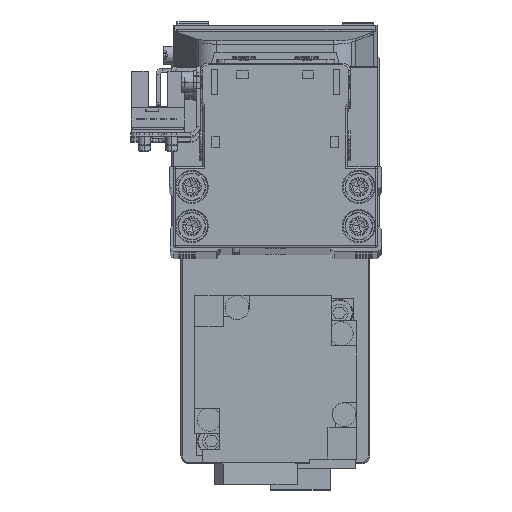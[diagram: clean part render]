
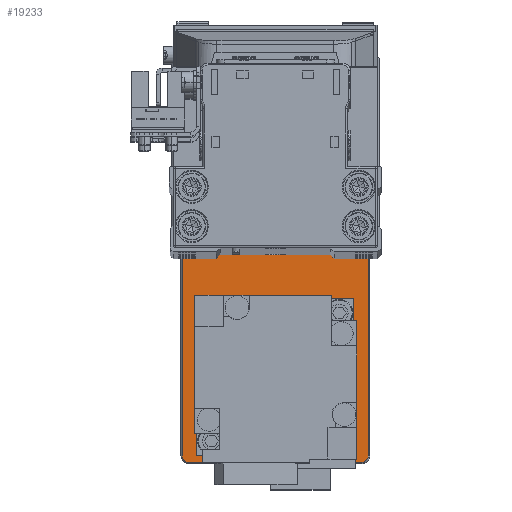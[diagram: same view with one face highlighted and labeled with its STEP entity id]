
A CAD part, top view. The second image highlights one B-rep face of the part: STEP entity #19233.
In plain terms, the highlighted planar face has unit normal (0, 0, 1).
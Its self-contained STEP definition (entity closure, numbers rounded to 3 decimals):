
#147 = CIRCLE ( 'NONE', #23209, 1.7 ) ;
#181 = AXIS2_PLACEMENT_3D ( 'NONE', #40775, #12530, #25102 ) ;
#596 = DIRECTION ( 'NONE',  ( 1., 0., 0. ) ) ;
#1442 = CARTESIAN_POINT ( 'NONE',  ( 51.7, 22., 5. ) ) ;
#1585 = DIRECTION ( 'NONE',  ( 0., 0., -1. ) ) ;
#3028 = FACE_BOUND ( 'NONE', #24442, .T. ) ;
#3333 = DIRECTION ( 'NONE',  ( 0., 0., 1. ) ) ;
#3351 = CARTESIAN_POINT ( 'NONE',  ( -51.7, -22., 5. ) ) ;
#3788 = CIRCLE ( 'NONE', #26828, 1.7 ) ;
#3816 = ORIENTED_EDGE ( 'NONE', *, *, #36213, .T. ) ;
#4192 = CARTESIAN_POINT ( 'NONE',  ( -51.7, -22., 5. ) ) ;
#4207 = CARTESIAN_POINT ( 'NONE',  ( 50., 23.7, 5. ) ) ;
#5780 = CARTESIAN_POINT ( 'NONE',  ( 51.7, -22., 5. ) ) ;
#6476 = AXIS2_PLACEMENT_3D ( 'NONE', #38012, #9766, #22330 ) ;
#6772 = CARTESIAN_POINT ( 'NONE',  ( 50., -22., 5. ) ) ;
#7786 = EDGE_CURVE ( 'NONE', #26775, #27962, #147, .T. ) ;
#8120 = CARTESIAN_POINT ( 'NONE',  ( 51.7, 22., 5. ) ) ;
#8799 = VERTEX_POINT ( 'NONE', #21249 ) ;
#9052 = CARTESIAN_POINT ( 'NONE',  ( 42.8, 0., 5. ) ) ;
#9523 = DIRECTION ( 'NONE',  ( 1., 0., 0. ) ) ;
#9561 = EDGE_LOOP ( 'NONE', ( #34800, #25081 ) ) ;
#9675 = CARTESIAN_POINT ( 'NONE',  ( -50., 23.7, 5. ) ) ;
#9766 = DIRECTION ( 'NONE',  ( 0., 0., -1. ) ) ;
#10217 = VECTOR ( 'NONE', #22225, 1000. ) ;
#10511 = CIRCLE ( 'NONE', #15734, 12.8 ) ;
#10532 = EDGE_CURVE ( 'NONE', #8799, #31688, #36464, .T. ) ;
#10872 = DIRECTION ( 'NONE',  ( 1., 0., 0. ) ) ;
#11378 = VERTEX_POINT ( 'NONE', #3351 ) ;
#11483 = ORIENTED_EDGE ( 'NONE', *, *, #23138, .T. ) ;
#11549 = CARTESIAN_POINT ( 'NONE',  ( 17.2, 0., 5. ) ) ;
#11702 = DIRECTION ( 'NONE',  ( 1., 0., 0. ) ) ;
#12530 = DIRECTION ( 'NONE',  ( 0., 0., 1. ) ) ;
#12904 = CARTESIAN_POINT ( 'NONE',  ( -28., 0., 5. ) ) ;
#12963 = CARTESIAN_POINT ( 'NONE',  ( -50., 23.7, 5. ) ) ;
#13582 = CIRCLE ( 'NONE', #36627, 10.3 ) ;
#14017 = DIRECTION ( 'NONE',  ( 0., 1., 0. ) ) ;
#14169 = DIRECTION ( 'NONE',  ( 1., 0., 0. ) ) ;
#14369 = VERTEX_POINT ( 'NONE', #14461 ) ;
#14461 = CARTESIAN_POINT ( 'NONE',  ( -38.3, 0., 5. ) ) ;
#14699 = EDGE_CURVE ( 'NONE', #22486, #39323, #10511, .T. ) ;
#14964 = EDGE_CURVE ( 'NONE', #23347, #14369, #34206, .T. ) ;
#15392 = EDGE_CURVE ( 'NONE', #39323, #22486, #24268, .T. ) ;
#15603 = FACE_OUTER_BOUND ( 'NONE', #23053, .T. ) ;
#15734 = AXIS2_PLACEMENT_3D ( 'NONE', #29834, #1585, #14169 ) ;
#15901 = DIRECTION ( 'NONE',  ( 1., 0., 0. ) ) ;
#16229 = ORIENTED_EDGE ( 'NONE', *, *, #27008, .T. ) ;
#16258 = CARTESIAN_POINT ( 'NONE',  ( -28., 0., 5. ) ) ;
#16377 = AXIS2_PLACEMENT_3D ( 'NONE', #31590, #3333, #15901 ) ;
#16448 = AXIS2_PLACEMENT_3D ( 'NONE', #12904, #25476, #38063 ) ;
#16767 = VECTOR ( 'NONE', #14017, 1000. ) ;
#16782 = DIRECTION ( 'NONE',  ( 0., -1., 0. ) ) ;
#18661 = AXIS2_PLACEMENT_3D ( 'NONE', #6772, #19343, #31918 ) ;
#18803 = VERTEX_POINT ( 'NONE', #28229 ) ;
#19233 = ADVANCED_FACE ( 'NONE', ( #31296, #3028, #15603 ), #28174, .T. ) ;
#19343 = DIRECTION ( 'NONE',  ( 0., 0., 1. ) ) ;
#19487 = CARTESIAN_POINT ( 'NONE',  ( -50., -23.7, 5. ) ) ;
#19768 = ORIENTED_EDGE ( 'NONE', *, *, #14964, .T. ) ;
#21249 = CARTESIAN_POINT ( 'NONE',  ( 50., -23.7, 5. ) ) ;
#22225 = DIRECTION ( 'NONE',  ( -1., 0., 0. ) ) ;
#22330 = DIRECTION ( 'NONE',  ( 1., 0., 0. ) ) ;
#22486 = VERTEX_POINT ( 'NONE', #11549 ) ;
#23053 = EDGE_LOOP ( 'NONE', ( #3816, #39568, #40521, #38889, #34228, #16229, #11483, #40505 ) ) ;
#23138 = EDGE_CURVE ( 'NONE', #18803, #11378, #32441, .T. ) ;
#23209 = AXIS2_PLACEMENT_3D ( 'NONE', #26532, #39118, #10872 ) ;
#23295 = ORIENTED_EDGE ( 'NONE', *, *, #39413, .T. ) ;
#23347 = VERTEX_POINT ( 'NONE', #24379 ) ;
#24204 = EDGE_CURVE ( 'NONE', #11378, #30967, #3788, .T. ) ;
#24268 = CIRCLE ( 'NONE', #6476, 12.8 ) ;
#24379 = CARTESIAN_POINT ( 'NONE',  ( -17.7, 0., 5. ) ) ;
#24442 = EDGE_LOOP ( 'NONE', ( #19768, #23295 ) ) ;
#25081 = ORIENTED_EDGE ( 'NONE', *, *, #14699, .T. ) ;
#25102 = DIRECTION ( 'NONE',  ( 1., 0., 0. ) ) ;
#25177 = LINE ( 'NONE', #37766, #40351 ) ;
#25476 = DIRECTION ( 'NONE',  ( 0., 0., -1. ) ) ;
#26532 = CARTESIAN_POINT ( 'NONE',  ( 50., 22., 5. ) ) ;
#26775 = VERTEX_POINT ( 'NONE', #8120 ) ;
#26828 = AXIS2_PLACEMENT_3D ( 'NONE', #27373, #39947, #11702 ) ;
#27008 = EDGE_CURVE ( 'NONE', #38130, #18803, #34152, .T. ) ;
#27373 = CARTESIAN_POINT ( 'NONE',  ( -50., -22., 5. ) ) ;
#27962 = VERTEX_POINT ( 'NONE', #4207 ) ;
#28174 = PLANE ( 'NONE',  #181 ) ;
#28229 = CARTESIAN_POINT ( 'NONE',  ( -51.7, 22., 5. ) ) ;
#28836 = DIRECTION ( 'NONE',  ( 0., 0., -1. ) ) ;
#29694 = LINE ( 'NONE', #1442, #16767 ) ;
#29834 = CARTESIAN_POINT ( 'NONE',  ( 30., 0., 5. ) ) ;
#30967 = VERTEX_POINT ( 'NONE', #19487 ) ;
#31296 = FACE_BOUND ( 'NONE', #9561, .T. ) ;
#31590 = CARTESIAN_POINT ( 'NONE',  ( -50., 22., 5. ) ) ;
#31688 = VERTEX_POINT ( 'NONE', #5780 ) ;
#31918 = DIRECTION ( 'NONE',  ( 1., 0., 0. ) ) ;
#32441 = LINE ( 'NONE', #4192, #32702 ) ;
#32702 = VECTOR ( 'NONE', #16782, 1000. ) ;
#34152 = CIRCLE ( 'NONE', #16377, 1.7 ) ;
#34206 = CIRCLE ( 'NONE', #16448, 10.3 ) ;
#34228 = ORIENTED_EDGE ( 'NONE', *, *, #38098, .T. ) ;
#34800 = ORIENTED_EDGE ( 'NONE', *, *, #15392, .T. ) ;
#36213 = EDGE_CURVE ( 'NONE', #30967, #8799, #25177, .T. ) ;
#36464 = CIRCLE ( 'NONE', #18661, 1.7 ) ;
#36627 = AXIS2_PLACEMENT_3D ( 'NONE', #16258, #28836, #596 ) ;
#37766 = CARTESIAN_POINT ( 'NONE',  ( 50., -23.7, 5. ) ) ;
#37801 = EDGE_CURVE ( 'NONE', #31688, #26775, #29694, .T. ) ;
#37919 = LINE ( 'NONE', #9675, #10217 ) ;
#38012 = CARTESIAN_POINT ( 'NONE',  ( 30., 0., 5. ) ) ;
#38063 = DIRECTION ( 'NONE',  ( 1., 0., 0. ) ) ;
#38098 = EDGE_CURVE ( 'NONE', #27962, #38130, #37919, .T. ) ;
#38130 = VERTEX_POINT ( 'NONE', #12963 ) ;
#38889 = ORIENTED_EDGE ( 'NONE', *, *, #7786, .T. ) ;
#39118 = DIRECTION ( 'NONE',  ( 0., 0., 1. ) ) ;
#39323 = VERTEX_POINT ( 'NONE', #9052 ) ;
#39413 = EDGE_CURVE ( 'NONE', #14369, #23347, #13582, .T. ) ;
#39568 = ORIENTED_EDGE ( 'NONE', *, *, #10532, .T. ) ;
#39947 = DIRECTION ( 'NONE',  ( 0., 0., 1. ) ) ;
#40351 = VECTOR ( 'NONE', #9523, 1000. ) ;
#40505 = ORIENTED_EDGE ( 'NONE', *, *, #24204, .T. ) ;
#40521 = ORIENTED_EDGE ( 'NONE', *, *, #37801, .T. ) ;
#40775 = CARTESIAN_POINT ( 'NONE',  ( 0., 0., 5. ) ) ;
